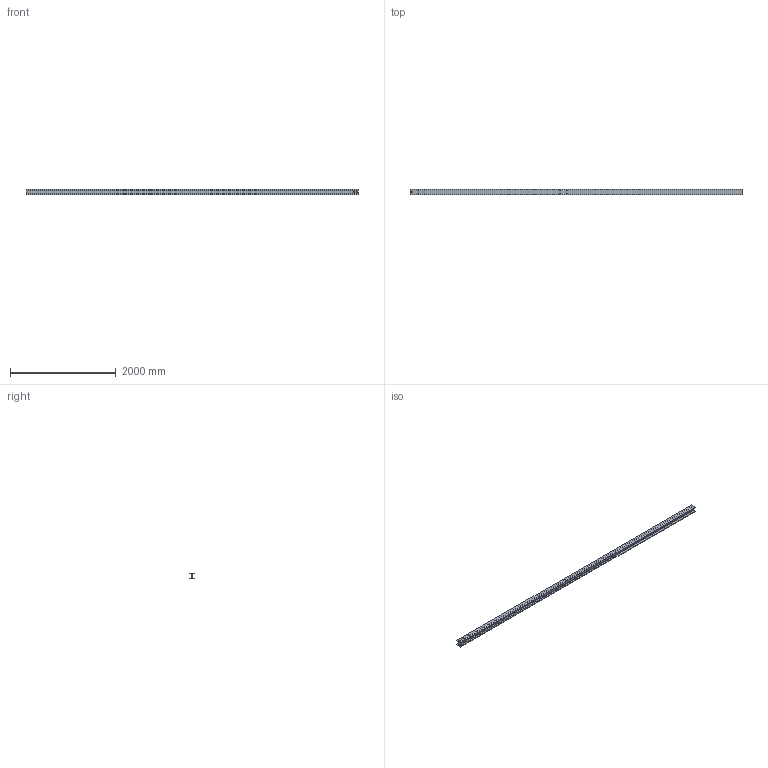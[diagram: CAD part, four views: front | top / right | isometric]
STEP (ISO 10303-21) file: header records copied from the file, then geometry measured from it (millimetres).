
FILE_DESCRIPTION (( 'STEP AP214' ), '1' );
FILE_NAME ('CCJ029-REP.003 - POUTRE A1-A3.STEP', '2025-10-30T13:58:56', ( '' ), ( '' ), 'SwSTEP 2.0', 'SolidWorks 2021', '' );
FILE_SCHEMA (( 'AUTOMOTIVE_DESIGN' ));
Length unit declared in the file: millimetre
Products named in the file (1): CCJ029-REP.003 - POUTRE A1-A3
Bounding box: 6270 x 100 x 100 mm (x, y, z)
Volume: 16310398.6 mm3; surface area: 3563872.5 mm2
Topology: 1 solids, 1 shells, 78 faces, 213 edges, 142 vertices
Faces by surface type: bspline 32, cylinder 24, plane 22
Entity records: 4667 total; most frequent: CARTESIAN_POINT 2786, ORIENTED_EDGE 426, DIRECTION 291, EDGE_CURVE 213, VERTEX_POINT 142, EDGE_LOOP 103, VECTOR 101, LINE 101
